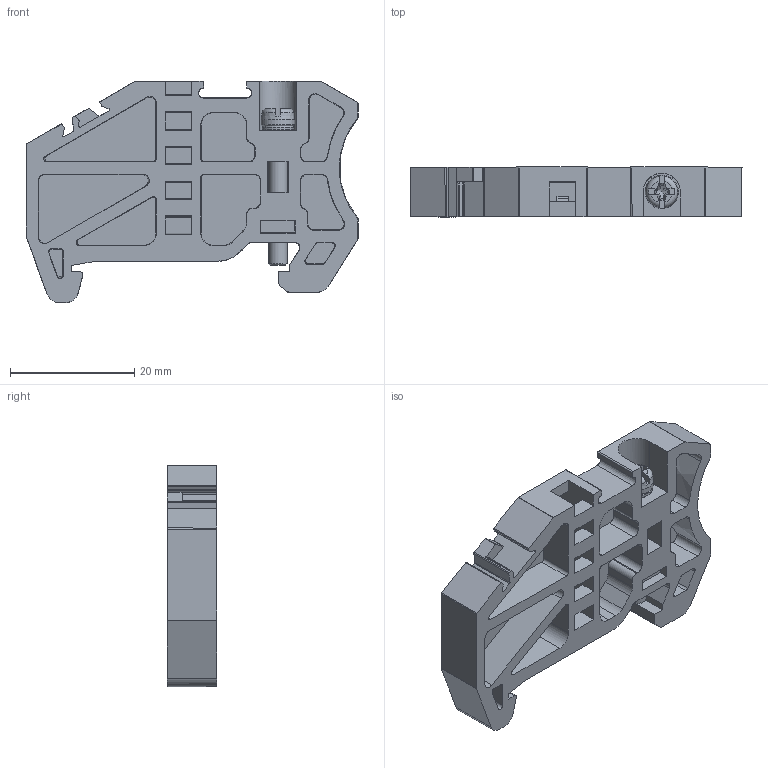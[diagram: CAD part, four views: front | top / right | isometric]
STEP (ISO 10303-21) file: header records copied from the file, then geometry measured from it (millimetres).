
FILE_DESCRIPTION(/* description */ ('Unknown'),/* implementation_level */ '2;1');
FILE_NAME(/* name */ 'RSA L35-A',/* time_stamp */ '2021-05-13T13:22:00+02:00',/* author */ ('Unknown'),/* organization */ ('Unknown'),/* preprocessor_version */ 'ST-DEVELOPER v16.7',/* originating_system */ 'Solid Edge',/* authorisation */ 'Unknown');
FILE_SCHEMA (('AUTOMOTIVE_DESIGN {1 0 10303 214 3 1 1}'));
Length unit declared in the file: millimetre
Products named in the file (1): RSA L35-A
Bounding box: 53.53 x 8 x 35.7 mm (x, y, z)
Volume: 7453.1 mm3; surface area: 7155.8 mm2
Topology: 1 solids, 1 shells, 318 faces, 928 edges, 612 vertices
Faces by surface type: plane 204, cylinder 98, cone 8, torus 8
Full cylindrical faces by diameter (mm): 3 x2, 5.4 x1, 8 x1
Entity records: 12774 total; most frequent: CARTESIAN_POINT 1982, ORIENTED_EDGE 1828, DIRECTION 1733, EDGE_CURVE 914, LINE 643, VECTOR 643, VERTEX_POINT 608, AXIS2_PLACEMENT_3D 545
